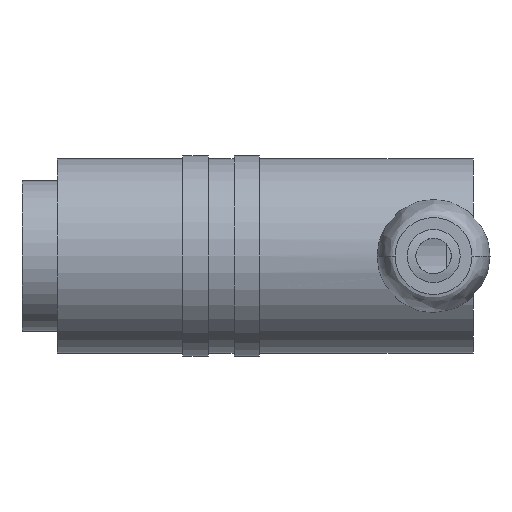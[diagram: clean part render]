
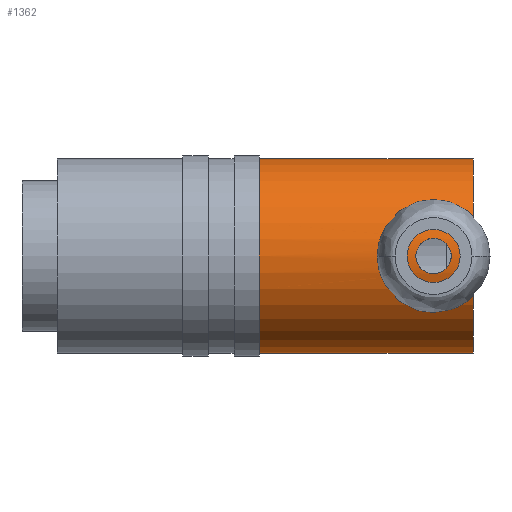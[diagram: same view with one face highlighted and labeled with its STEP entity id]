
A CAD part, front view. The second image highlights one B-rep face of the part: STEP entity #1362.
In plain terms, the highlighted cylindrical face has radius 11 mm (diameter 22 mm), a partial arc.
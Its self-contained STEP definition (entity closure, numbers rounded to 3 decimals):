
#53 = CARTESIAN_POINT ( 'NONE',  ( 51., 0., 0. ) ) ;
#65 = CARTESIAN_POINT ( 'NONE',  ( 48.235, -10.955, 1.004 ) ) ;
#80 = CARTESIAN_POINT ( 'NONE',  ( 47.148, -10.835, -1.897 ) ) ;
#92 = CARTESIAN_POINT ( 'NONE',  ( 44.5, -11., -0.262 ) ) ;
#99 = CARTESIAN_POINT ( 'NONE',  ( 45.854, -10.835, -1.897 ) ) ;
#116 = CIRCLE ( 'NONE', #1108, 11. ) ;
#156 = CIRCLE ( 'NONE', #1295, 11. ) ;
#172 = LINE ( 'NONE', #1190, #987 ) ;
#176 = CARTESIAN_POINT ( 'NONE',  ( 48.448, -10.99, 0.525 ) ) ;
#182 = DIRECTION ( 'NONE',  ( -1., 0., 0. ) ) ;
#186 = CARTESIAN_POINT ( 'NONE',  ( 0., 0., -11. ) ) ;
#196 = CARTESIAN_POINT ( 'NONE',  ( 47.509, -10.861, -1.747 ) ) ;
#203 = CARTESIAN_POINT ( 'NONE',  ( 44.5, -11., 0.13 ) ) ;
#210 = CARTESIAN_POINT ( 'NONE',  ( 45.497, -10.862, -1.735 ) ) ;
#227 = EDGE_CURVE ( 'NONE', #561, #781, #116, .T. ) ;
#239 = EDGE_LOOP ( 'NONE', ( #844, #1178, #284, #871 ) ) ;
#279 = CARTESIAN_POINT ( 'NONE',  ( 48.5, -11., -0.131 ) ) ;
#284 = ORIENTED_EDGE ( 'NONE', *, *, #861, .T. ) ;
#285 = CARTESIAN_POINT ( 'NONE',  ( 47.386, -10.852, 1.798 ) ) ;
#290 = CARTESIAN_POINT ( 'NONE',  ( 46.369, -10.817, 2. ) ) ;
#311 = CARTESIAN_POINT ( 'NONE',  ( 44.564, -10.988, 0.52 ) ) ;
#342 = CARTESIAN_POINT ( 'NONE',  ( 51., 0., 11. ) ) ;
#380 = CARTESIAN_POINT ( 'NONE',  ( 48.09, -10.933, 1.22 ) ) ;
#385 = CARTESIAN_POINT ( 'NONE',  ( 48.436, -10.989, -0.517 ) ) ;
#388 = VERTEX_POINT ( 'NONE', #819 ) ;
#391 = CARTESIAN_POINT ( 'NONE',  ( 44.703, -10.965, 0.887 ) ) ;
#395 = CARTESIAN_POINT ( 'NONE',  ( 45.98, -10.828, 1.936 ) ) ;
#403 = CARTESIAN_POINT ( 'NONE',  ( 26.824, 0., 11. ) ) ;
#407 = VECTOR ( 'NONE', #656, 1000. ) ;
#420 = CARTESIAN_POINT ( 'NONE',  ( 46.632, -10.817, -2. ) ) ;
#423 = CARTESIAN_POINT ( 'NONE',  ( 46.5, -10.817, -2. ) ) ;
#479 = DIRECTION ( 'NONE',  ( 0., 0., 1. ) ) ;
#493 = CARTESIAN_POINT ( 'NONE',  ( 48.298, -10.965, -0.886 ) ) ;
#498 = CARTESIAN_POINT ( 'NONE',  ( 45.613, -10.852, 1.797 ) ) ;
#509 = CARTESIAN_POINT ( 'NONE',  ( 46.763, -10.819, -1.987 ) ) ;
#561 = VERTEX_POINT ( 'NONE', #787 ) ;
#589 = CARTESIAN_POINT ( 'NONE',  ( 47.721, -10.885, 1.59 ) ) ;
#595 = CARTESIAN_POINT ( 'NONE',  ( 48.091, -10.933, -1.219 ) ) ;
#596 = CARTESIAN_POINT ( 'NONE',  ( 0., 0., 0. ) ) ;
#599 = CARTESIAN_POINT ( 'NONE',  ( 45.28, -10.885, 1.59 ) ) ;
#604 = CARTESIAN_POINT ( 'NONE',  ( 46.761, -10.817, 2. ) ) ;
#620 = CARTESIAN_POINT ( 'NONE',  ( 46.368, -10.817, -2. ) ) ;
#626 = CARTESIAN_POINT ( 'NONE',  ( 44.602, -10.982, 0.644 ) ) ;
#656 = DIRECTION ( 'NONE',  ( -1., 0., 0. ) ) ;
#665 = DIRECTION ( 'NONE',  ( 0., 0., 1. ) ) ;
#670 = DIRECTION ( 'NONE',  ( -1., 0., 0. ) ) ;
#673 = CARTESIAN_POINT ( 'NONE',  ( 26.824, 0., 0. ) ) ;
#683 = EDGE_CURVE ( 'NONE', #1315, #1022, #156, .T. ) ;
#689 = DIRECTION ( 'NONE',  ( -1., 0., 0. ) ) ;
#704 = FACE_OUTER_BOUND ( 'NONE', #239, .T. ) ;
#705 = CARTESIAN_POINT ( 'NONE',  ( 48.296, -10.965, 0.889 ) ) ;
#716 = CARTESIAN_POINT ( 'NONE',  ( 44.91, -10.933, 1.22 ) ) ;
#719 = DIRECTION ( 'NONE',  ( 0., 0., 1. ) ) ;
#734 = CARTESIAN_POINT ( 'NONE',  ( 44.553, -10.99, -0.526 ) ) ;
#741 = CARTESIAN_POINT ( 'NONE',  ( 45.981, -10.828, -1.936 ) ) ;
#754 = CARTESIAN_POINT ( 'NONE',  ( 45.178, -10.897, -1.506 ) ) ;
#781 = VERTEX_POINT ( 'NONE', #342 ) ;
#787 = CARTESIAN_POINT ( 'NONE',  ( 51., 0., -11. ) ) ;
#802 = AXIS2_PLACEMENT_3D ( 'NONE', #596, #182, #719 ) ;
#817 = CARTESIAN_POINT ( 'NONE',  ( 48.5, -11., 0.265 ) ) ;
#819 = CARTESIAN_POINT ( 'NONE',  ( 46.5, -10.817, 2. ) ) ;
#825 = CARTESIAN_POINT ( 'NONE',  ( 47.025, -10.827, 1.947 ) ) ;
#831 = CARTESIAN_POINT ( 'NONE',  ( 47.021, -10.828, -1.935 ) ) ;
#835 = CARTESIAN_POINT ( 'NONE',  ( 46.5, -10.817, -2. ) ) ;
#838 = DIRECTION ( 'NONE',  ( -1., 0., 0. ) ) ;
#844 = ORIENTED_EDGE ( 'NONE', *, *, #1098, .F. ) ;
#850 = CARTESIAN_POINT ( 'NONE',  ( 45.612, -10.852, -1.797 ) ) ;
#861 = EDGE_CURVE ( 'NONE', #781, #1022, #172, .T. ) ;
#862 = VERTEX_POINT ( 'NONE', #1323 ) ;
#871 = ORIENTED_EDGE ( 'NONE', *, *, #683, .F. ) ;
#929 = CARTESIAN_POINT ( 'NONE',  ( 48.487, -10.998, -0.261 ) ) ;
#930 = CYLINDRICAL_SURFACE ( 'NONE', #802, 11. ) ;
#935 = CARTESIAN_POINT ( 'NONE',  ( 46.5, -10.817, 2. ) ) ;
#947 = CARTESIAN_POINT ( 'NONE',  ( 47.731, -10.885, -1.597 ) ) ;
#953 = CARTESIAN_POINT ( 'NONE',  ( 44.513, -10.998, 0.263 ) ) ;
#965 = FACE_BOUND ( 'NONE', #1129, .T. ) ;
#987 = VECTOR ( 'NONE', #838, 1000. ) ;
#1022 = VERTEX_POINT ( 'NONE', #403 ) ;
#1033 = CARTESIAN_POINT ( 'NONE',  ( 48.398, -10.982, -0.645 ) ) ;
#1040 = CARTESIAN_POINT ( 'NONE',  ( 46.5, -10.817, 2. ) ) ;
#1053 = CARTESIAN_POINT ( 'NONE',  ( 45.28, -10.885, -1.59 ) ) ;
#1098 = EDGE_CURVE ( 'NONE', #561, #1315, #1252, .T. ) ;
#1108 = AXIS2_PLACEMENT_3D ( 'NONE', #53, #689, #479 ) ;
#1124 = B_SPLINE_CURVE_WITH_KNOTS ( 'NONE', 3,
 ( #423, #620, #1368, #741, #99, #850, #210, #1053, #754, #1364, #1154, #734, #92, #203, #953, #311, #626, #391, #1346, #716, #1350, #1142, #599, #1245, #498, #1246, #395, #1146, #290, #1040 ),
 .UNSPECIFIED., .F., .F.,
 ( 4, 2, 2, 2, 2, 2, 2, 2, 2, 2, 2, 2, 2, 2, 4 ),
 ( 0., 0., 0.001, 0.001, 0.002, 0.002, 0.003, 0.004, 0.004, 0.004, 0.005, 0.005, 0.005, 0.006, 0.006 ),
 .UNSPECIFIED. ) ;
#1129 = EDGE_LOOP ( 'NONE', ( #1212, #1145 ) ) ;
#1131 = CARTESIAN_POINT ( 'NONE',  ( 47.503, -10.862, 1.735 ) ) ;
#1135 = CARTESIAN_POINT ( 'NONE',  ( 48.236, -10.955, -1.001 ) ) ;
#1142 = CARTESIAN_POINT ( 'NONE',  ( 45.179, -10.897, 1.507 ) ) ;
#1145 = ORIENTED_EDGE ( 'NONE', *, *, #1273, .T. ) ;
#1146 = CARTESIAN_POINT ( 'NONE',  ( 46.237, -10.819, 1.987 ) ) ;
#1154 = CARTESIAN_POINT ( 'NONE',  ( 44.753, -10.956, -1.007 ) ) ;
#1178 = ORIENTED_EDGE ( 'NONE', *, *, #227, .T. ) ;
#1190 = CARTESIAN_POINT ( 'NONE',  ( 0., 0., 11. ) ) ;
#1212 = ORIENTED_EDGE ( 'NONE', *, *, #1269, .T. ) ;
#1228 = B_SPLINE_CURVE_WITH_KNOTS ( 'NONE', 3,
 ( #935, #604, #825, #285, #1131, #589, #1238, #1339, #380, #65, #705, #176, #817, #279, #929, #385, #1033, #493, #1135, #595, #1242, #947, #196, #80, #831, #509, #420, #835 ),
 .UNSPECIFIED., .F., .F.,
 ( 4, 2, 2, 2, 2, 2, 2, 2, 2, 2, 2, 2, 2, 4 ),
 ( 0.006, 0.007, 0.007, 0.008, 0.008, 0.009, 0.009, 0.01, 0.01, 0.011, 0.011, 0.012, 0.012, 0.013 ),
 .UNSPECIFIED. ) ;
#1234 = CARTESIAN_POINT ( 'NONE',  ( 26.824, 0., -11. ) ) ;
#1238 = CARTESIAN_POINT ( 'NONE',  ( 47.821, -10.897, 1.507 ) ) ;
#1242 = CARTESIAN_POINT ( 'NONE',  ( 48.007, -10.921, -1.321 ) ) ;
#1245 = CARTESIAN_POINT ( 'NONE',  ( 45.496, -10.863, 1.735 ) ) ;
#1246 = CARTESIAN_POINT ( 'NONE',  ( 45.855, -10.835, 1.898 ) ) ;
#1252 = LINE ( 'NONE', #186, #407 ) ;
#1269 = EDGE_CURVE ( 'NONE', #862, #388, #1124, .T. ) ;
#1273 = EDGE_CURVE ( 'NONE', #388, #862, #1228, .T. ) ;
#1295 = AXIS2_PLACEMENT_3D ( 'NONE', #673, #670, #665 ) ;
#1315 = VERTEX_POINT ( 'NONE', #1234 ) ;
#1323 = CARTESIAN_POINT ( 'NONE',  ( 46.5, -10.817, -2. ) ) ;
#1339 = CARTESIAN_POINT ( 'NONE',  ( 48.006, -10.921, 1.323 ) ) ;
#1346 = CARTESIAN_POINT ( 'NONE',  ( 44.765, -10.955, 1.004 ) ) ;
#1350 = CARTESIAN_POINT ( 'NONE',  ( 44.993, -10.921, 1.321 ) ) ;
#1362 = ADVANCED_FACE ( 'NONE', ( #704, #965 ), #930, .T. ) ;
#1364 = CARTESIAN_POINT ( 'NONE',  ( 44.901, -10.933, -1.23 ) ) ;
#1368 = CARTESIAN_POINT ( 'NONE',  ( 46.237, -10.819, -1.987 ) ) ;
